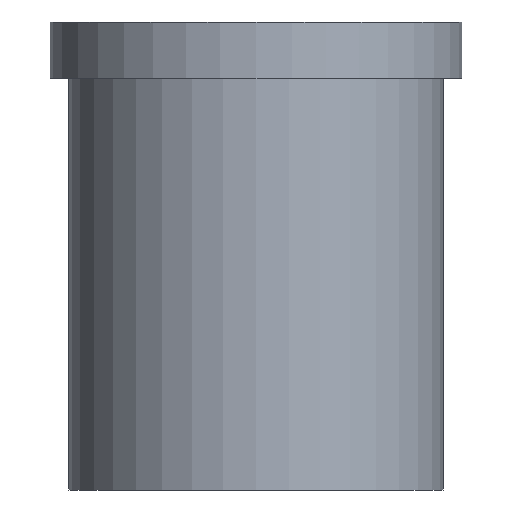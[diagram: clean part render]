
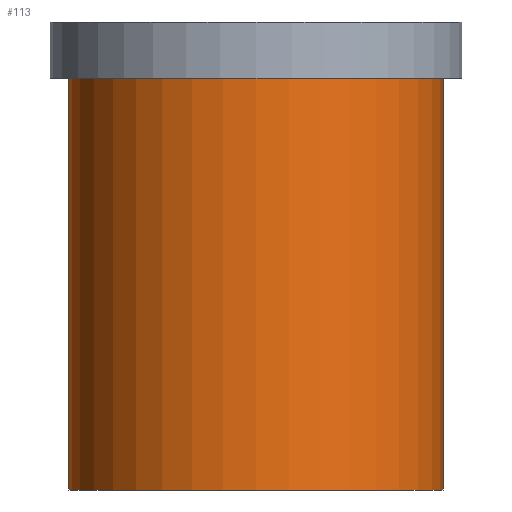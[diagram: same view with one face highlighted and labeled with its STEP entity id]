
A CAD part, front view. The second image highlights one B-rep face of the part: STEP entity #113.
In plain terms, the highlighted cylindrical face has radius 10 mm (diameter 20 mm), a partial arc.
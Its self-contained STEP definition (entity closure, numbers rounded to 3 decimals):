
#113=ADVANCED_FACE('',(#126),#120,.T.);
#120=CYLINDRICAL_SURFACE('',#249,10.);
#126=FACE_OUTER_BOUND('',#136,.T.);
#136=EDGE_LOOP('',(#179,#180,#181,#182));
#148=CIRCLE('',#244,10.);
#150=CIRCLE('',#248,10.);
#179=ORIENTED_EDGE('',*,*,#213,.F.);
#180=ORIENTED_EDGE('',*,*,#212,.T.);
#181=ORIENTED_EDGE('',*,*,#215,.T.);
#182=ORIENTED_EDGE('',*,*,#216,.F.);
#195=VERTEX_POINT('',#328);
#196=VERTEX_POINT('',#329);
#197=VERTEX_POINT('',#333);
#198=VERTEX_POINT('',#335);
#212=EDGE_CURVE('',#196,#195,#148,.T.);
#213=EDGE_CURVE('',#196,#197,#221,.T.);
#215=EDGE_CURVE('',#195,#198,#222,.T.);
#216=EDGE_CURVE('',#197,#198,#150,.T.);
#221=LINE('',#332,#227);
#222=LINE('',#336,#228);
#227=VECTOR('',#289,1.);
#228=VECTOR('',#292,1.);
#244=AXIS2_PLACEMENT_3D('',#330,#285,#286);
#248=AXIS2_PLACEMENT_3D('',#338,#295,#296);
#249=AXIS2_PLACEMENT_3D('',#339,#297,#298);
#285=DIRECTION('',(0.,0.,1.));
#286=DIRECTION('',(0.,1.,0.));
#289=DIRECTION('',(0.,0.,1.));
#292=DIRECTION('',(0.,0.,1.));
#295=DIRECTION('',(0.,0.,1.));
#296=DIRECTION('',(0.,1.,0.));
#297=DIRECTION('',(0.,0.,1.));
#298=DIRECTION('',(0.,-1.,0.));
#328=CARTESIAN_POINT('',(10.,0.,-22.));
#329=CARTESIAN_POINT('',(-10.,0.,-22.));
#330=CARTESIAN_POINT('',(0.,0.,-22.));
#332=CARTESIAN_POINT('',(-10.,0.,-22.));
#333=CARTESIAN_POINT('',(-10.,0.,0.));
#335=CARTESIAN_POINT('',(10.,0.,0.));
#336=CARTESIAN_POINT('',(10.,0.,-22.));
#338=CARTESIAN_POINT('',(0.,0.,0.));
#339=CARTESIAN_POINT('',(0.,0.,-22.));
